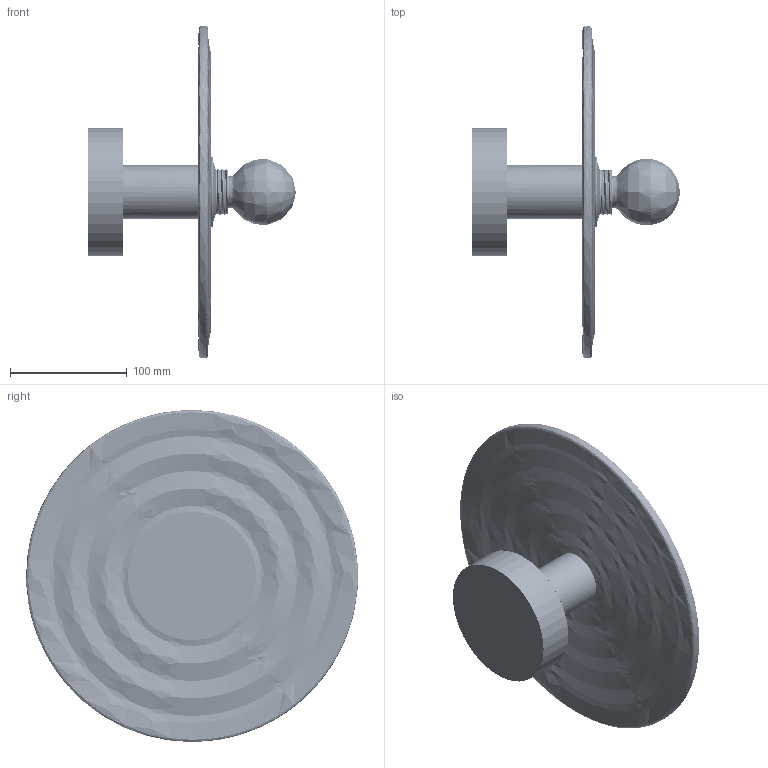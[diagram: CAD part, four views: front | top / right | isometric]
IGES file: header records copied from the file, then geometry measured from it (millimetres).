
Start section: SolidWorks IGES file using analytic representation for surfaces
Global section: file name: C:\Users\adrian\Desktop\MODELADOS USA\WAVE\1094-30.IGS; native system: SolidWorks 2023; preprocessor: SolidWorks 2023; author: adrian; date: 260609.121453; units: inch
Bounding box: 178.15 x 284.73 x 284.98 mm (x, y, z)
Surface area: 229182.3 mm2 (no closed solid volume)
Topology: 0 solids, 0 shells, 452 faces, 10900 edges, 10888 vertices
Faces by surface type: bspline 450, revolution 2
